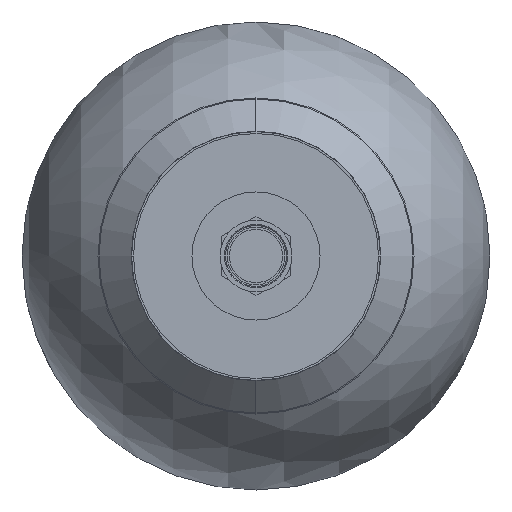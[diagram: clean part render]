
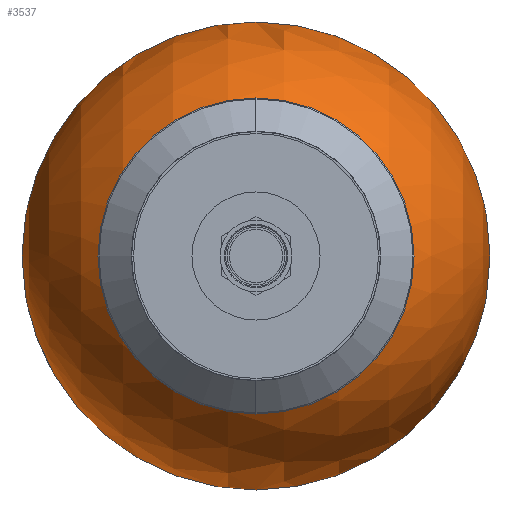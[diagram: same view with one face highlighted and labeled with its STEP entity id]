
A CAD part, front view. The second image highlights one B-rep face of the part: STEP entity #3537.
In plain terms, the highlighted spherical face has radius 109.55 mm.
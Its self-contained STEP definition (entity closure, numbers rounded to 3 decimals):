
#3012=CARTESIAN_POINT('',(-140.659,63.5,0.0));
#3013=VERTEX_POINT('',#3012);
#3028=CARTESIAN_POINT('',(-140.659,-155.6,0.));
#3029=VERTEX_POINT('',#3028);
#3036=CARTESIAN_POINT('',(-140.659,-46.05,0.0));
#3037=DIRECTION('',(1.0,0.0,0.0));
#3038=DIRECTION('',(0.0,1.0,0.0));
#3039=AXIS2_PLACEMENT_3D('',#3036,#3037,#3038);
#3040=CIRCLE('',#3039,109.55);
#3041=EDGE_CURVE('',#3029,#3013,#3040,.T.);
#3371=CARTESIAN_POINT('',(-140.659,-46.05,0.0));
#3372=DIRECTION('',(1.0,0.0,0.0));
#3373=DIRECTION('',(0.0,1.0,0.0));
#3374=AXIS2_PLACEMENT_3D('',#3371,#3372,#3373);
#3375=CIRCLE('',#3374,109.55);
#3376=EDGE_CURVE('',#3013,#3029,#3375,.T.);
#3509=CARTESIAN_POINT('',(-246.021,-16.05,0.0));
#3510=VERTEX_POINT('',#3509);
#3511=CARTESIAN_POINT('',(-246.021,-46.05,0.0));
#3512=DIRECTION('',(1.0,0.0,0.0));
#3513=DIRECTION('',(0.0,1.0,0.0));
#3514=AXIS2_PLACEMENT_3D('',#3511,#3512,#3513);
#3515=CIRCLE('',#3514,30.0);
#3516=EDGE_CURVE('',#3510,#3510,#3515,.T.);
#3525=CARTESIAN_POINT('',(-140.659,-46.05,0.0));
#3526=DIRECTION('',(0.0,0.0,1.0));
#3527=DIRECTION('',(1.0,0.0,0.0));
#3528=AXIS2_PLACEMENT_3D('',#3525,#3526,#3527);
#3529=SPHERICAL_SURFACE('',#3528,109.55);
#3530=ORIENTED_EDGE('',*,*,#3376,.F.);
#3531=ORIENTED_EDGE('',*,*,#3041,.F.);
#3532=EDGE_LOOP('',(#3530,#3531));
#3533=FACE_OUTER_BOUND('',#3532,.T.);
#3534=ORIENTED_EDGE('',*,*,#3516,.T.);
#3535=EDGE_LOOP('',(#3534));
#3536=FACE_BOUND('',#3535,.T.);
#3537=ADVANCED_FACE('',(#3533,#3536),#3529,.T.);
